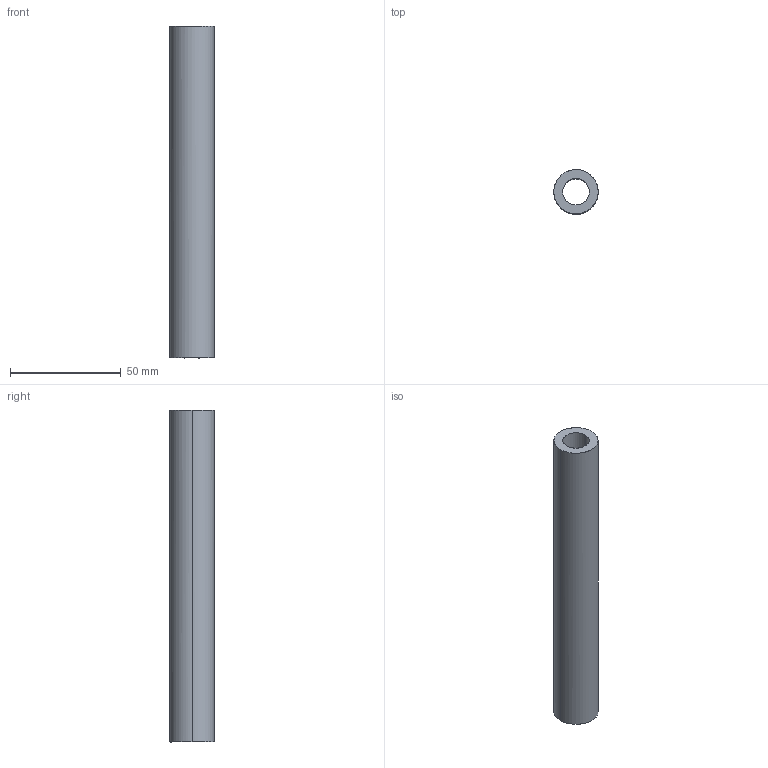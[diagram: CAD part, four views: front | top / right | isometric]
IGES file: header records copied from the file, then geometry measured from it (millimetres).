
Global section: file name: E:\UnigraphicsGraphicData\MISUMI_PRESS-PARTS\IGES\3d_sb20-150_00137_r00.igs; native system: NX V5.0; preprocessor: UGS NX IGES V5.0; author: MISUMI; date: 20110105.162424; units: millimetre
Bounding box: 20 x 20 x 150 mm (x, y, z)
Surface area: 15483.1 mm2 (no closed solid volume)
Topology: 0 solids, 0 shells, 6 faces, 48 edges, 48 vertices
Faces by surface type: bspline 6
